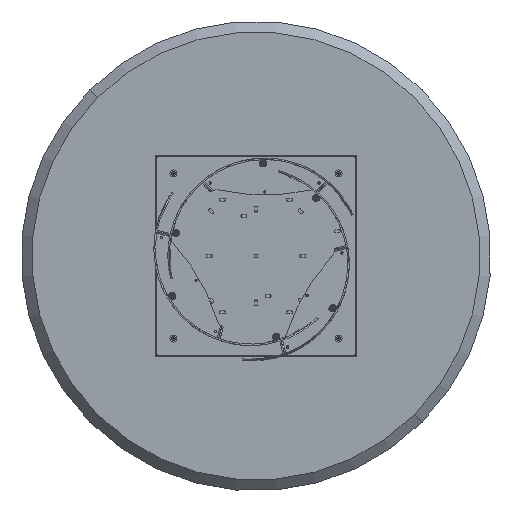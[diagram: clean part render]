
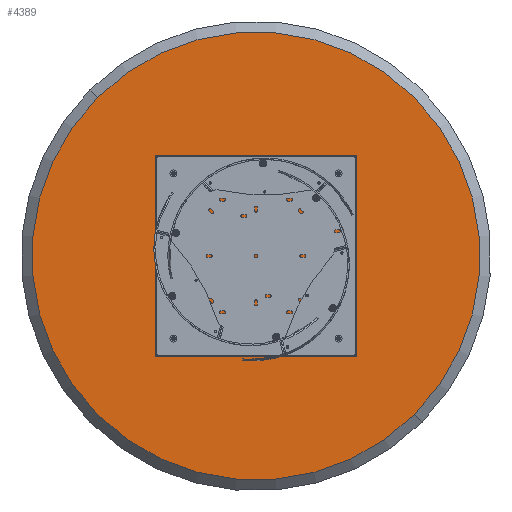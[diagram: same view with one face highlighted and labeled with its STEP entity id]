
A CAD part, front view. The second image highlights one B-rep face of the part: STEP entity #4389.
In plain terms, the highlighted planar face has unit normal (0, -1, 0).
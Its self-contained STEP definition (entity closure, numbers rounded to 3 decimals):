
#159 = CARTESIAN_POINT ( 'NONE',  ( 0., 0., 763. ) ) ;
#348 = VERTEX_POINT ( 'NONE', #159 ) ;
#631 = EDGE_LOOP ( 'NONE', ( #2053, #17728 ) ) ;
#714 = CARTESIAN_POINT ( 'NONE',  ( -397.5, 0., -3.4 ) ) ;
#795 = DIRECTION ( 'NONE',  ( 0., -1., 0. ) ) ;
#1066 = FACE_BOUND ( 'NONE', #19371, .T. ) ;
#1071 = VERTEX_POINT ( 'NONE', #18477 ) ;
#1454 = DIRECTION ( 'NONE',  ( 0., 0., -1. ) ) ;
#1665 = CARTESIAN_POINT ( 'NONE',  ( 0., 0., -763. ) ) ;
#1690 = DIRECTION ( 'NONE',  ( 0., -1., 0. ) ) ;
#1755 = FACE_BOUND ( 'NONE', #7821, .T. ) ;
#1997 = CARTESIAN_POINT ( 'NONE',  ( 0., 0., 397.5 ) ) ;
#2053 = ORIENTED_EDGE ( 'NONE', *, *, #11288, .F. ) ;
#2068 = CARTESIAN_POINT ( 'NONE',  ( 0., 0., -397.5 ) ) ;
#2359 = CARTESIAN_POINT ( 'NONE',  ( 0., 0., -397.5 ) ) ;
#2567 = CARTESIAN_POINT ( 'NONE',  ( 397.5, 0., 3.4 ) ) ;
#2656 = DIRECTION ( 'NONE',  ( 0., 0., -1. ) ) ;
#2767 = CIRCLE ( 'NONE', #18423, 763. ) ;
#2962 = DIRECTION ( 'NONE',  ( 0., 0., -1. ) ) ;
#3009 = AXIS2_PLACEMENT_3D ( 'NONE', #11293, #1690, #2962 ) ;
#3142 = AXIS2_PLACEMENT_3D ( 'NONE', #1997, #17756, #14437 ) ;
#3333 = EDGE_CURVE ( 'NONE', #348, #16282, #13933, .T. ) ;
#3605 = CARTESIAN_POINT ( 'NONE',  ( -397.5, 0., 0. ) ) ;
#3796 = ORIENTED_EDGE ( 'NONE', *, *, #12100, .T. ) ;
#4232 = EDGE_LOOP ( 'NONE', ( #19510, #3796 ) ) ;
#4389 = ADVANCED_FACE ( 'NONE', ( #15760, #16932, #1755, #12237, #1066 ), #7430, .T. ) ;
#4403 = ORIENTED_EDGE ( 'NONE', *, *, #13715, .F. ) ;
#4708 = EDGE_CURVE ( 'NONE', #4982, #14022, #19613, .T. ) ;
#4827 = VERTEX_POINT ( 'NONE', #5347 ) ;
#4982 = VERTEX_POINT ( 'NONE', #19987 ) ;
#5149 = DIRECTION ( 'NONE',  ( 0., 0., -1. ) ) ;
#5347 = CARTESIAN_POINT ( 'NONE',  ( 0., 0., -400.9 ) ) ;
#6013 = VERTEX_POINT ( 'NONE', #11342 ) ;
#6696 = ORIENTED_EDGE ( 'NONE', *, *, #7635, .F. ) ;
#7013 = CIRCLE ( 'NONE', #14378, 3.4 ) ;
#7153 = DIRECTION ( 'NONE',  ( 0., 0., -1. ) ) ;
#7409 = CIRCLE ( 'NONE', #9086, 3.4 ) ;
#7430 = PLANE ( 'NONE',  #18634 ) ;
#7635 = EDGE_CURVE ( 'NONE', #9949, #9939, #7013, .T. ) ;
#7656 = DIRECTION ( 'NONE',  ( 0., -1., 0. ) ) ;
#7821 = EDGE_LOOP ( 'NONE', ( #6696, #18911 ) ) ;
#8206 = DIRECTION ( 'NONE',  ( 0., 0., -1. ) ) ;
#8313 = EDGE_CURVE ( 'NONE', #9939, #9949, #15378, .T. ) ;
#8960 = AXIS2_PLACEMENT_3D ( 'NONE', #15225, #19800, #10613 ) ;
#9086 = AXIS2_PLACEMENT_3D ( 'NONE', #2068, #13129, #8206 ) ;
#9111 = EDGE_CURVE ( 'NONE', #9950, #1071, #16064, .T. ) ;
#9612 = CIRCLE ( 'NONE', #12279, 3.4 ) ;
#9614 = DIRECTION ( 'NONE',  ( 0., -1., 0. ) ) ;
#9784 = DIRECTION ( 'NONE',  ( 0., 0., -1. ) ) ;
#9939 = VERTEX_POINT ( 'NONE', #11781 ) ;
#9949 = VERTEX_POINT ( 'NONE', #714 ) ;
#9950 = VERTEX_POINT ( 'NONE', #19809 ) ;
#10613 = DIRECTION ( 'NONE',  ( 0., 0., -1. ) ) ;
#11288 = EDGE_CURVE ( 'NONE', #4827, #6013, #7409, .T. ) ;
#11293 = CARTESIAN_POINT ( 'NONE',  ( 397.5, 0., 0. ) ) ;
#11342 = CARTESIAN_POINT ( 'NONE',  ( 0., 0., -394.1 ) ) ;
#11347 = DIRECTION ( 'NONE',  ( 0., -1., 0. ) ) ;
#11455 = CARTESIAN_POINT ( 'NONE',  ( -397.5, 0., 0. ) ) ;
#11781 = CARTESIAN_POINT ( 'NONE',  ( -397.5, 0., 3.4 ) ) ;
#11953 = ORIENTED_EDGE ( 'NONE', *, *, #4708, .F. ) ;
#12015 = CIRCLE ( 'NONE', #3009, 3.4 ) ;
#12100 = EDGE_CURVE ( 'NONE', #16282, #348, #2767, .T. ) ;
#12146 = CIRCLE ( 'NONE', #3142, 3.4 ) ;
#12166 = CARTESIAN_POINT ( 'NONE',  ( 0., 0., 0. ) ) ;
#12212 = CARTESIAN_POINT ( 'NONE',  ( 0., 0., 0. ) ) ;
#12237 = FACE_BOUND ( 'NONE', #17431, .T. ) ;
#12279 = AXIS2_PLACEMENT_3D ( 'NONE', #2359, #795, #7153 ) ;
#13129 = DIRECTION ( 'NONE',  ( 0., -1., 0. ) ) ;
#13715 = EDGE_CURVE ( 'NONE', #1071, #9950, #12146, .T. ) ;
#13933 = CIRCLE ( 'NONE', #19246, 763. ) ;
#14022 = VERTEX_POINT ( 'NONE', #2567 ) ;
#14378 = AXIS2_PLACEMENT_3D ( 'NONE', #11455, #11347, #9784 ) ;
#14437 = DIRECTION ( 'NONE',  ( 0., 0., -1. ) ) ;
#15225 = CARTESIAN_POINT ( 'NONE',  ( 397.5, 0., 0. ) ) ;
#15378 = CIRCLE ( 'NONE', #17041, 3.4 ) ;
#15443 = DIRECTION ( 'NONE',  ( 0., -1., 0. ) ) ;
#15760 = FACE_OUTER_BOUND ( 'NONE', #4232, .T. ) ;
#15876 = DIRECTION ( 'NONE',  ( 0., 0., -1. ) ) ;
#16064 = CIRCLE ( 'NONE', #17731, 3.4 ) ;
#16282 = VERTEX_POINT ( 'NONE', #1665 ) ;
#16739 = DIRECTION ( 'NONE',  ( 0., -1., 0. ) ) ;
#16932 = FACE_BOUND ( 'NONE', #631, .T. ) ;
#17010 = DIRECTION ( 'NONE',  ( 0., 0., -1. ) ) ;
#17041 = AXIS2_PLACEMENT_3D ( 'NONE', #3605, #16739, #5149 ) ;
#17340 = CARTESIAN_POINT ( 'NONE',  ( 0., 0., 397.5 ) ) ;
#17431 = EDGE_LOOP ( 'NONE', ( #11953, #18748 ) ) ;
#17532 = CARTESIAN_POINT ( 'NONE',  ( 0., 0., 0. ) ) ;
#17728 = ORIENTED_EDGE ( 'NONE', *, *, #18608, .F. ) ;
#17731 = AXIS2_PLACEMENT_3D ( 'NONE', #17340, #9614, #15876 ) ;
#17756 = DIRECTION ( 'NONE',  ( 0., -1., 0. ) ) ;
#18423 = AXIS2_PLACEMENT_3D ( 'NONE', #12166, #7656, #2656 ) ;
#18477 = CARTESIAN_POINT ( 'NONE',  ( 0., 0., 394.1 ) ) ;
#18608 = EDGE_CURVE ( 'NONE', #6013, #4827, #9612, .T. ) ;
#18634 = AXIS2_PLACEMENT_3D ( 'NONE', #17532, #20162, #1454 ) ;
#18748 = ORIENTED_EDGE ( 'NONE', *, *, #20536, .F. ) ;
#18911 = ORIENTED_EDGE ( 'NONE', *, *, #8313, .F. ) ;
#19246 = AXIS2_PLACEMENT_3D ( 'NONE', #12212, #15443, #17010 ) ;
#19371 = EDGE_LOOP ( 'NONE', ( #4403, #19493 ) ) ;
#19493 = ORIENTED_EDGE ( 'NONE', *, *, #9111, .F. ) ;
#19510 = ORIENTED_EDGE ( 'NONE', *, *, #3333, .T. ) ;
#19613 = CIRCLE ( 'NONE', #8960, 3.4 ) ;
#19800 = DIRECTION ( 'NONE',  ( 0., -1., 0. ) ) ;
#19809 = CARTESIAN_POINT ( 'NONE',  ( 0., 0., 400.9 ) ) ;
#19987 = CARTESIAN_POINT ( 'NONE',  ( 397.5, 0., -3.4 ) ) ;
#20162 = DIRECTION ( 'NONE',  ( 0., -1., 0. ) ) ;
#20536 = EDGE_CURVE ( 'NONE', #14022, #4982, #12015, .T. ) ;
